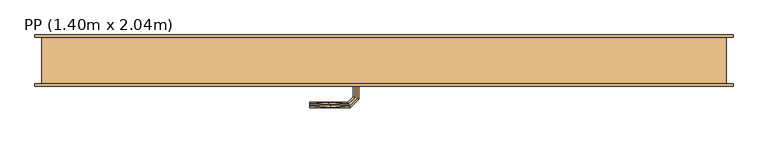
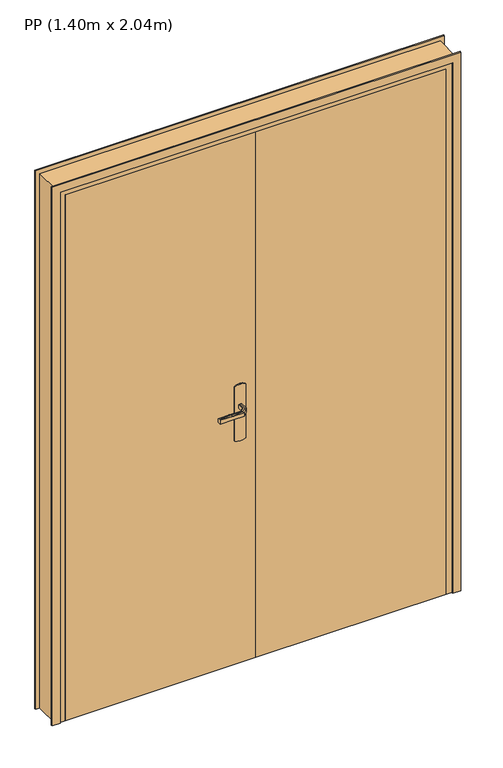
"""IFC4 building model written with IfcOpenShell, lengths in millimetres: door geometry, PP (1.40m x 2.04m)."""

from ifc_helpers import new_model, si_unit, frame, origin, origin_with_axes, place, context, project, spatial, polyline, outline, extrude, faceted_brep, source, transform, mapped, element, save


def pp_1_40m_x_2_04m_d2815c85(model_context):
    return source(origin(), model_context, "Body", "SolidModel", [
        faceted_brep([(1540.0, 0.0, 0.0), (1505.0, 0.0, 0.0), (1505.0, 40.0, 0.0), (1490.0, 40.0, 0.0), (1490.0, 100.0, 0.0), (1540.0, 100.0, 0.0), (1540.0, 100.0, 2075.0), (1540.0, 0.0, 2075.0), (1490.0, 100.0, 2025.0), (120.0, 100.0, 2025.0), (120.0, 100.0, 0.0), (70.0, 100.0, 0.0), (70.0, 100.0, 2075.0), (1490.0, 40.0, 2025.0), (1505.0, 40.0, 2040.0), (105.0, 40.0, 2040.0), (105.0, 40.0, 0.0), (120.0, 40.0, 0.0), (120.0, 40.0, 2025.0), (1505.0, 0.0, 2040.0), (70.0, 0.0, 2075.0), (70.0, 0.0, 0.0), (105.0, 0.0, 0.0), (105.0, 0.0, 2040.0)], [[[0, 1, 2, 3, 4, 5]], [[5, 6, 7, 0]], [[4, 8, 9, 10, 11, 12, 6, 5]], [[3, 13, 8, 4]], [[2, 14, 15, 16, 17, 18, 13, 3]], [[1, 19, 14, 2]], [[0, 7, 20, 21, 22, 23, 19, 1]], [[12, 11, 21, 20]], [[21, 11, 10, 17, 16, 22]], [[18, 17, 10, 9]], [[23, 22, 16, 15]], [[6, 12, 20, 7]], [[13, 18, 9, 8]], [[19, 23, 15, 14]]]),
        extrude(outline(polyline([(805.0, 40.0), (1505.0, 40.0), (1505.0, 0.0), (805.0, 0.0), (805.0, 40.0)])), origin_with_axes(), (0.0, 0.0, 1.0), 2040.0),
        faceted_brep([(742.9747013, -5.0, 1007.7804408), (747.0252987, -5.0, 1007.7804408), (751.0, -5.0, 1007.0), (751.0, -5.0, 993.0), (747.0252987, -5.0, 992.2195592), (742.9747013, -5.0, 992.2195592), (739.0, -5.0, 993.0), (739.0, -5.0, 1007.0), (747.0252987, -31.0045755, 1007.7804408), (751.0, -32.6509507, 1007.0), (742.9747013, -29.3267632, 1007.7804408), (729.2986025, -43.002862, 1007.7804408), (730.9764148, -47.0534593, 1007.7804408), (739.0, -27.680388, 1007.0), (739.0, -27.680388, 993.0), (742.9747013, -29.3267632, 992.2195592), (747.0252987, -31.0045755, 992.2195592), (730.9764148, -47.0534593, 992.2195592), (729.2986025, -43.002862, 992.2195592), (751.0, -32.6509507, 993.0), (732.62279, -51.0281607, 1007.0), (727.6522273, -39.0281607, 1007.0), (727.6522273, -39.0281607, 993.0), (732.62279, -51.0281607, 993.0), (644.9813594, -51.0281607, 1007.0), (644.9813594, -47.0534593, 1007.7804408), (644.9813594, -43.002862, 1007.7804408), (644.9813594, -39.0281607, 1007.0), (644.9813594, -39.0281607, 993.0), (644.9813594, -43.002862, 992.2195592), (644.9813594, -47.0534593, 992.2195592), (644.9813594, -51.0281607, 993.0), (687.1399809, -45.0281607, 1007.8786868), (692.6923028, -51.0281607, 1007.0), (686.3167933, -39.0281607, 1007.0), (686.3167933, -39.0281607, 993.0), (687.1399811, -45.0281608, 992.1213132), (692.6923104, -51.0281607, 993.0)], [[[0, 1, 2, 3, 4, 5, 6, 7]], [[2, 1, 8, 9]], [[1, 0, 10, 11, 12, 8]], [[0, 7, 13, 10]], [[14, 13, 7, 6]], [[5, 15, 14, 6]], [[5, 4, 16, 17, 18, 15]], [[3, 19, 16, 4]], [[9, 19, 3, 2]], [[9, 8, 12, 20]], [[10, 13, 21, 11]], [[22, 21, 13, 14]], [[14, 15, 18, 22]], [[16, 19, 23, 17]], [[20, 23, 19, 9]], [[24, 25, 26, 27, 28, 29, 30, 31]], [[32, 25, 33]], [[33, 25, 24]], [[33, 20, 12]], [[11, 34, 32]], [[34, 11, 21]], [[27, 26, 34]], [[32, 26, 25]], [[32, 34, 26]], [[32, 33, 12]], [[11, 32, 12]], [[21, 22, 35, 28, 27, 34]], [[36, 29, 35]], [[30, 36, 37]], [[18, 35, 22]], [[29, 28, 35]], [[30, 37, 31]], [[37, 17, 23]], [[36, 17, 37]], [[36, 18, 17]], [[36, 35, 18]], [[29, 36, 30]], [[23, 20, 33, 24, 31, 37]]]),
        extrude(outline(polyline([(805.0, 40.0), (805.0, 0.0), (105.0, 0.0), (105.0, 40.0), (805.0, 40.0)])), origin_with_axes(), (0.0, 0.0, 1.0), 2040.0),
        extrude(outline(polyline([(0.0, 1555.0), (2090.0, 1555.0), (2090.0, 55.0), (0.0, 55.0), (0.0, 85.0), (2060.0, 85.0), (2060.0, 1525.0), (0.0, 1525.0), (0.0, 1555.0)])), frame((0.0, -5.0, 0.0), z_axis=(0.0, 1.0, 0.0), x_axis=(0.0, 0.0, 1.0)), (0.0, 0.0, 1.0), 5.0),
        extrude(outline(polyline([(870.0, 765.0), (1080.0, 765.0), (1083.9960169, 755.3527618), (1085.3589838, 745.0), (1083.9960169, 734.6472382), (1080.0, 725.0), (870.0, 725.0), (866.0039831, 734.6472382), (864.6410162, 745.0), (866.0039831, 755.3527618), (870.0, 765.0)])), frame((0.0, -5.0, 0.0), z_axis=(0.0, 1.0, 0.0), x_axis=(0.0, 0.0, 1.0)), (0.0, 0.0, 1.0), 5.0),
        extrude(outline(polyline([(870.0, 765.0), (1080.0, 765.0), (1083.9960169, 755.3527618), (1085.3589838, 745.0), (1083.9960169, 734.6472382), (1080.0, 725.0), (870.0, 725.0), (866.0039831, 734.6472382), (864.6410162, 745.0), (866.0039831, 755.3527618), (870.0, 765.0)])), frame((0.0, 40.0, 0.0), z_axis=(0.0, 1.0, 0.0), x_axis=(0.0, 0.0, 1.0)), (0.0, 0.0, 1.0), 5.0),
        faceted_brep([(742.9747013, 45.0, 992.2195592), (747.0252987, 45.0, 992.2195592), (751.0, 45.0, 993.0), (751.0, 45.0, 1007.0), (747.0252987, 45.0, 1007.7804408), (742.9747013, 45.0, 1007.7804408), (739.0, 45.0, 1007.0), (739.0, 45.0, 993.0), (739.0, 67.4852045, 1007.0), (739.0, 67.4852045, 993.0), (742.9747013, 69.1315797, 1007.7804408), (747.0252987, 70.8093921, 1007.7804408), (730.8389062, 86.9957845, 1007.7804408), (729.1610938, 82.9451872, 1007.7804408), (751.0, 72.4557673, 1007.0), (751.0, 72.4557673, 993.0), (747.0252987, 70.8093921, 992.2195592), (742.9747013, 69.1315797, 992.2195592), (729.1610938, 82.9451872, 992.2195592), (730.8389062, 86.9957845, 992.2195592), (727.5147186, 78.9704859, 1007.0), (727.5147186, 78.9704859, 993.0), (732.4852814, 90.9704859, 1007.0), (732.4852814, 90.9704859, 993.0), (644.9542163, 82.9451872, 1007.7804408), (644.9542163, 86.9957845, 1007.7804408), (644.9542163, 90.9704859, 1007.0), (644.9542163, 90.9704859, 993.0), (644.9542163, 86.9957845, 992.2195592), (644.9542163, 82.9451872, 992.2195592), (644.9542163, 78.9704859, 993.0), (644.9542163, 78.9704859, 1007.0), (686.2344675, 78.9704859, 1007.0), (686.2344794, 78.9704859, 993.0), (687.0576551, 84.9704859, 1007.8786868), (692.5547942, 90.9704859, 1007.0), (692.5547957, 90.9704859, 993.0), (687.0576549, 84.9704858, 992.1213132)], [[[0, 1, 2, 3, 4, 5, 6, 7]], [[8, 9, 7, 6]], [[5, 10, 8, 6]], [[5, 4, 11, 12, 13, 10]], [[3, 14, 11, 4]], [[14, 3, 2, 15]], [[2, 1, 16, 15]], [[1, 0, 17, 18, 19, 16]], [[0, 7, 9, 17]], [[20, 21, 9, 8]], [[8, 10, 13, 20]], [[14, 22, 12, 11]], [[23, 22, 14, 15]], [[15, 16, 19, 23]], [[17, 9, 21, 18]], [[24, 25, 26, 27, 28, 29, 30, 31]], [[21, 20, 32, 31, 30, 33]], [[34, 24, 32]], [[25, 34, 35]], [[13, 32, 20]], [[24, 31, 32]], [[25, 35, 26]], [[35, 12, 22]], [[34, 12, 35]], [[34, 13, 12]], [[34, 32, 13]], [[24, 34, 25]], [[22, 23, 36, 27, 26, 35]], [[37, 28, 36]], [[36, 28, 27]], [[36, 23, 19]], [[18, 33, 37]], [[33, 18, 21]], [[30, 29, 33]], [[37, 29, 28]], [[37, 33, 29]], [[37, 36, 19]], [[18, 37, 19]]]),
        extrude(outline(polyline([(0.0, 1555.0), (2090.0, 1555.0), (2090.0, 55.0), (0.0, 55.0), (0.0, 85.0), (2060.0, 85.0), (2060.0, 1525.0), (0.0, 1525.0), (0.0, 1555.0)])), frame((0.0, 100.0, 0.0), z_axis=(0.0, 1.0, 0.0), x_axis=(0.0, 0.0, 1.0)), (0.0, 0.0, 1.0), 5.0),
    ])


if __name__ == "__main__":
    model = new_model("IFC4")
    model_context = context("Model", 3, world=origin())
    ifc_project = project(units=[si_unit("LENGTHUNIT", "METRE", prefix="MILLI")], contexts=[model_context])
    site = spatial("IfcSite", under=ifc_project)
    building = spatial("IfcBuilding", under=site)
    placement = place(None, origin())
    pp_1_40m_x_2_04m_shape = pp_1_40m_x_2_04m_d2815c85(model_context)
    element("IfcDoor", 1, ObjectType="PP (1.40m x 2.04m)", at=placement, inside=building, context=model_context, shape_type="MappedRepresentation", body=[
        mapped(pp_1_40m_x_2_04m_shape, transform((0.0, 0.0, 0.0), x_axis=(1.0, 0.0, 0.0), y_axis=(0.0, 1.0, 0.0), z_axis=(0.0, 0.0, 1.0))),
    ])
    save(model, "model.ifc")
